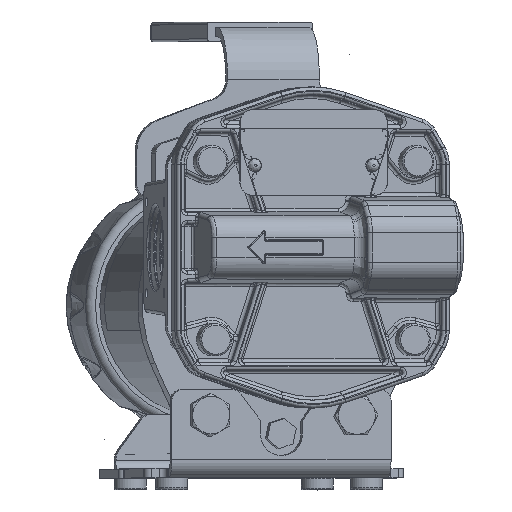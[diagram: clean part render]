
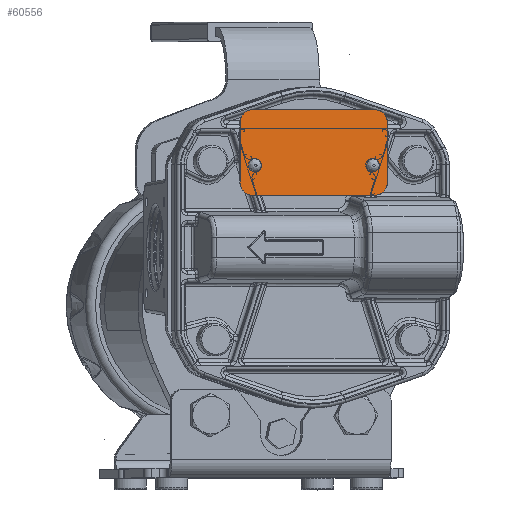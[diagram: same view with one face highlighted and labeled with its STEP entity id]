
A CAD part, top view. The second image highlights one B-rep face of the part: STEP entity #60556.
In plain terms, the highlighted planar face has unit normal (0.192, 0, 0.981).
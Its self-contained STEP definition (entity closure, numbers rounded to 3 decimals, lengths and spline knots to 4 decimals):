
#1643=FACE_BOUND('',#12199,.T.);
#1644=FACE_BOUND('',#12200,.T.);
#4755=PLANE('',#65127);
#8530=FACE_OUTER_BOUND('',#12198,.T.);
#12198=EDGE_LOOP('',(#53290,#53291,#53292,#53293,#53294,#53295,#53296,#53297));
#12199=EDGE_LOOP('',(#53298));
#12200=EDGE_LOOP('',(#53299));
#14058=CIRCLE('',#65099,0.075);
#14063=CIRCLE('',#65106,0.075);
#14069=CIRCLE('',#65115,0.156);
#14071=CIRCLE('',#65119,0.156);
#14073=CIRCLE('',#65122,0.156);
#14075=CIRCLE('',#65126,0.156);
#18975=LINE('',#142300,#21953);
#18980=LINE('',#142313,#21958);
#18988=LINE('',#142336,#21966);
#18991=LINE('',#142343,#21969);
#21953=VECTOR('',#77003,0.3937);
#21958=VECTOR('',#77016,0.3937);
#21966=VECTOR('',#77038,0.3937);
#21969=VECTOR('',#77049,0.3937);
#27410=VERTEX_POINT('',#142220);
#27413=VERTEX_POINT('',#142257);
#27418=VERTEX_POINT('',#142297);
#27419=VERTEX_POINT('',#142299);
#27421=VERTEX_POINT('',#142305);
#27423=VERTEX_POINT('',#142311);
#27425=VERTEX_POINT('',#142319);
#27428=VERTEX_POINT('',#142326);
#27429=VERTEX_POINT('',#142328);
#27431=VERTEX_POINT('',#142334);
#36092=EDGE_CURVE('',#27410,#27410,#14058,.T.);
#36097=EDGE_CURVE('',#27413,#27413,#14063,.T.);
#36104=EDGE_CURVE('',#27419,#27418,#18975,.T.);
#36108=EDGE_CURVE('',#27418,#27421,#14069,.T.);
#36111=EDGE_CURVE('',#27421,#27423,#18980,.T.);
#36116=EDGE_CURVE('',#27423,#27425,#14071,.T.);
#36119=EDGE_CURVE('',#27429,#27428,#14073,.T.);
#36123=EDGE_CURVE('',#27428,#27431,#18988,.T.);
#36127=EDGE_CURVE('',#27431,#27419,#14075,.T.);
#36128=EDGE_CURVE('',#27425,#27429,#18991,.T.);
#53290=ORIENTED_EDGE('',*,*,#36104,.T.);
#53291=ORIENTED_EDGE('',*,*,#36108,.T.);
#53292=ORIENTED_EDGE('',*,*,#36111,.T.);
#53293=ORIENTED_EDGE('',*,*,#36116,.T.);
#53294=ORIENTED_EDGE('',*,*,#36128,.T.);
#53295=ORIENTED_EDGE('',*,*,#36119,.T.);
#53296=ORIENTED_EDGE('',*,*,#36123,.T.);
#53297=ORIENTED_EDGE('',*,*,#36127,.T.);
#53298=ORIENTED_EDGE('',*,*,#36092,.T.);
#53299=ORIENTED_EDGE('',*,*,#36097,.T.);
#60556=ADVANCED_FACE('',(#8530,#1643,#1644),#4755,.F.);
#65099=AXIS2_PLACEMENT_3D('',#142221,#76973,#76974);
#65106=AXIS2_PLACEMENT_3D('',#142258,#76987,#76988);
#65115=AXIS2_PLACEMENT_3D('',#142307,#77010,#77011);
#65119=AXIS2_PLACEMENT_3D('',#142321,#77024,#77025);
#65122=AXIS2_PLACEMENT_3D('',#142329,#77031,#77032);
#65126=AXIS2_PLACEMENT_3D('',#142341,#77045,#77046);
#65127=AXIS2_PLACEMENT_3D('',#142342,#77047,#77048);
#76973=DIRECTION('center_axis',(-0.192,0.,
-0.981));
#76974=DIRECTION('ref_axis',(-0.958,0.216,0.187));
#76987=DIRECTION('center_axis',(-0.192,0.,
-0.981));
#76988=DIRECTION('ref_axis',(0.981,-0.031,-0.192));
#77003=DIRECTION('',(-0.981,0.,0.192));
#77010=DIRECTION('center_axis',(0.192,0.,
0.981));
#77011=DIRECTION('ref_axis',(0.,-1.,0.));
#77016=DIRECTION('',(0.,-1.,0.));
#77024=DIRECTION('center_axis',(0.192,0.,
0.981));
#77025=DIRECTION('ref_axis',(0.981,0.,-0.192));
#77031=DIRECTION('center_axis',(0.192,0.,
0.981));
#77032=DIRECTION('ref_axis',(0.,1.,0.));
#77038=DIRECTION('',(0.,1.,0.));
#77045=DIRECTION('center_axis',(0.192,0.,
0.981));
#77046=DIRECTION('ref_axis',(-0.981,0.,0.192));
#77047=DIRECTION('center_axis',(-0.192,0.,
-0.981));
#77048=DIRECTION('ref_axis',(-0.981,0.,0.192));
#77049=DIRECTION('',(0.981,0.,-0.192));
#142220=CARTESIAN_POINT('',(1.0104,3.5617,4.6265));
#142221=CARTESIAN_POINT('Origin',(1.0263,3.6349,4.6234));
#142257=CARTESIAN_POINT('',(2.4025,3.7098,4.3543));
#142258=CARTESIAN_POINT('Origin',(2.4003,3.6349,4.3547));
#142297=CARTESIAN_POINT('',(1.0076,4.2849,4.6271));
#142299=CARTESIAN_POINT('',(2.4189,4.2849,4.3511));
#142300=CARTESIAN_POINT('',(1.0076,4.2849,4.6271));
#142305=CARTESIAN_POINT('',(0.8545,4.1289,4.657));
#142307=CARTESIAN_POINT('Origin',(1.0076,4.1289,4.6271));
#142311=CARTESIAN_POINT('',(0.8545,3.4409,4.657));
#142313=CARTESIAN_POINT('',(0.8545,3.4409,4.657));
#142319=CARTESIAN_POINT('',(1.0076,3.2849,4.6271));
#142321=CARTESIAN_POINT('Origin',(1.0076,3.4409,4.6271));
#142326=CARTESIAN_POINT('',(2.572,3.4409,4.3212));
#142328=CARTESIAN_POINT('',(2.4189,3.2849,4.3511));
#142329=CARTESIAN_POINT('Origin',(2.4189,3.4409,4.3511));
#142334=CARTESIAN_POINT('',(2.572,4.1289,4.3212));
#142336=CARTESIAN_POINT('',(2.572,4.1289,4.3212));
#142341=CARTESIAN_POINT('Origin',(2.4189,4.1289,4.3511));
#142342=CARTESIAN_POINT('Origin',(1.0263,3.6349,4.6234));
#142343=CARTESIAN_POINT('',(2.4189,3.2849,4.3511));
